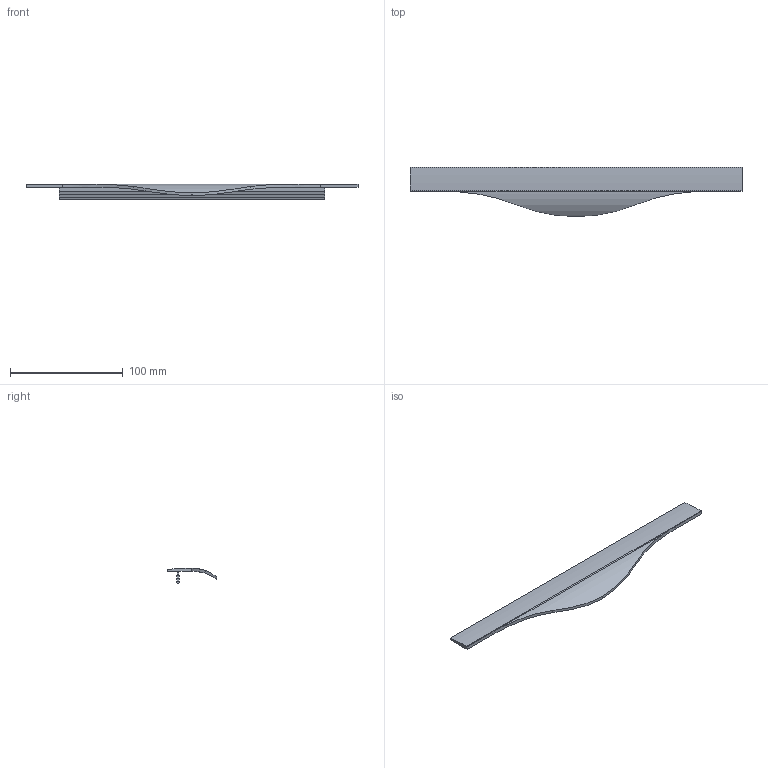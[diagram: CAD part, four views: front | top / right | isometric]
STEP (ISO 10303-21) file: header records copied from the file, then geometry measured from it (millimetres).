
FILE_DESCRIPTION( ( 'STEP AP214' ), '1' );
FILE_NAME( 'C:/Users/swati/Desktop/04-03-2016/9209994/9209994.stp', ' ', ( ' ' ), ( ' ' ), 'PSStep 15.0.47', 'PARTsolutions', ' ' );
FILE_SCHEMA( ( 'AUTOMOTIVE_DESIGN { 1 0 10303 214 1 1 1 1 }' ) );
Length unit declared in the file: millimetre
Products named in the file (2): 95 ; _
Assembly tree (1 placements, depth 2):
  95 
    _
Bounding box: 295 x 43.67 x 14 mm (x, y, z)
Volume: 28174.8 mm3; surface area: 25629.1 mm2
Topology: 1 solids, 1 shells, 32 faces, 87 edges, 58 vertices
Faces by surface type: plane 25, cylinder 7
Entity records: 1351 total; most frequent: CARTESIAN_POINT 255, ORIENTED_EDGE 174, DIRECTION 153, EDGE_CURVE 87, LINE 73, VECTOR 73, VERTEX_POINT 58, AXIS2_PLACEMENT_3D 40
